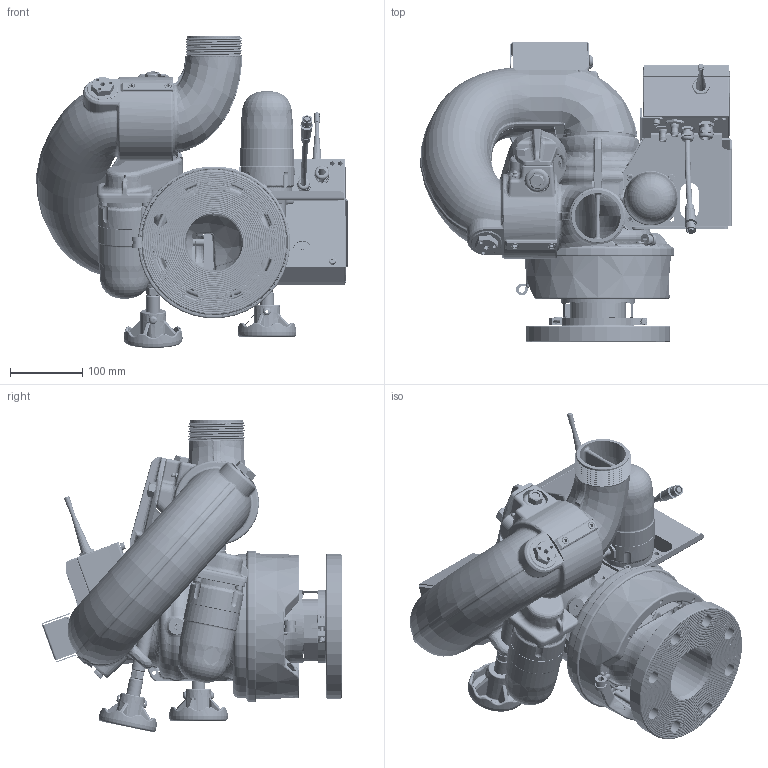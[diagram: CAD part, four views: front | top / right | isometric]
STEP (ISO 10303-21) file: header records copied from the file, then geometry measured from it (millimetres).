
FILE_DESCRIPTION (( 'STEP AP203' ), '1' );
FILE_NAME ('XFIH-E41A_Horizontal.STEP', '2014-11-17T17:41:05', ( '' ), ( '' ), 'SwSTEP 2.0', 'SolidWorks 2014', '' );
FILE_SCHEMA (( 'CONFIG_CONTROL_DESIGN' ));
Length unit declared in the file: inch
Products named in the file (1): XFIH-E41A_Horizontal
Bounding box: 429.5 x 413.45 x 430.42 mm (x, y, z)
Surface area: 1131709.3 mm2 (no closed solid volume)
Topology: 0 solids, 264 shells, 3199 faces, 14472 edges, 11286 vertices
Faces by surface type: plane 977, cylinder 736, bspline 647, torus 492, cone 304, sphere 43
Entity records: 215965 total; most frequent: CARTESIAN_POINT 110741, ORIENTED_EDGE 20539, DIRECTION 18818, EDGE_CURVE 14430, VERTEX_POINT 11275, LINE 6308, VECTOR 6308, AXIS2_PLACEMENT_3D 6255
